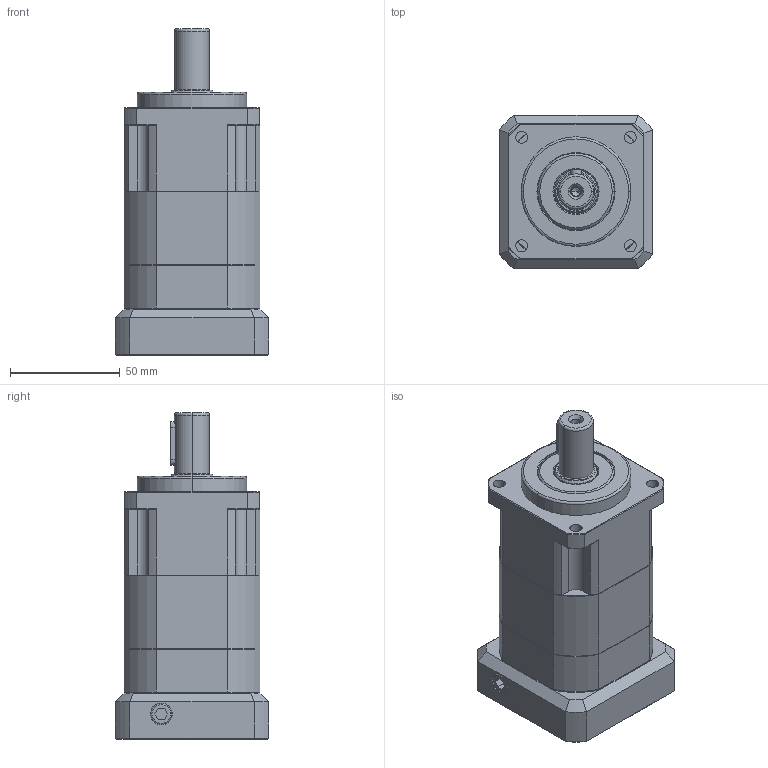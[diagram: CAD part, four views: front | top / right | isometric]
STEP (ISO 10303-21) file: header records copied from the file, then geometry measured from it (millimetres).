
FILE_DESCRIPTION (( 'STEP AP203' ), '1' );
FILE_NAME ('SB62A-2-60M6.step', '2023-11-16T03:41:36', ( '' ), ( '' ), 'SwSTEP 2.0', 'SolidWorks 2021', '' );
FILE_SCHEMA (( 'CONFIG_CONTROL_DESIGN' ));
Length unit declared in the file: millimetre
Products named in the file (1): SB62A-2-60M6
Bounding box: 70 x 70 x 148.8 mm (x, y, z)
Volume: 370532.6 mm3; surface area: 59225.3 mm2
Topology: 3 solids, 16 shells, 633 faces, 1545 edges, 944 vertices
Faces by surface type: plane 258, cylinder 187, cone 149, torus 29, bspline 10
Entity records: 19875 total; most frequent: CARTESIAN_POINT 4923, DIRECTION 3244, ORIENTED_EDGE 3038, EDGE_CURVE 1519, AXIS2_PLACEMENT_3D 1289, VERTEX_POINT 944, EDGE_LOOP 687, LINE 666
